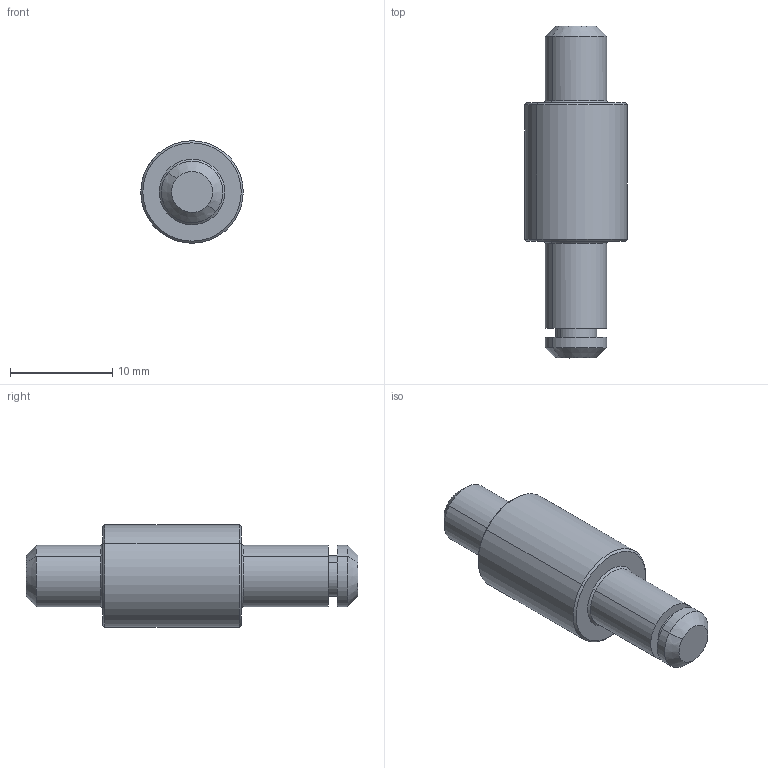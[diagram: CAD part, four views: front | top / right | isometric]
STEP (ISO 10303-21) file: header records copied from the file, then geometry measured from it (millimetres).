
FILE_DESCRIPTION(('CATIA V5 STEP Exchange'),'2;1');
FILE_NAME('C:\Users\nobody\Desktop\SHT0013109_B.stp','2024-04-22T03:38:21+00:00',('none'),('none'),'CATIA Version 5 Release 20 GA (IN-10)','CATIA V5 STEP AP203 Edition 2','none');
FILE_SCHEMA(('AP203_CONFIGURATION_CONTROLLED_3D_DESIGN_OF_MECHANICAL_PARTS_AND_ASSEMBLIES_MIM_LF { 1 0 10303 403 2 1 2}'));
Length unit declared in the file: millimetre
Products named in the file (1): SHT0013109
Bounding box: 10.01 x 32.4 x 10 mm (x, y, z)
Volume: 1563.3 mm3; surface area: 926.7 mm2
Topology: 1 solids, 1 shells, 28 faces, 54 edges, 32 vertices
Faces by surface type: cone 12, cylinder 10, plane 6
Entity records: 695 total; most frequent: CARTESIAN_POINT 126, ORIENTED_EDGE 108, DIRECTION 98, AXIS2_PLACEMENT_3D 54, EDGE_CURVE 54, VERTEX_POINT 32, EDGE_LOOP 32, CIRCLE 30
